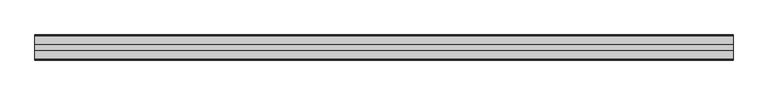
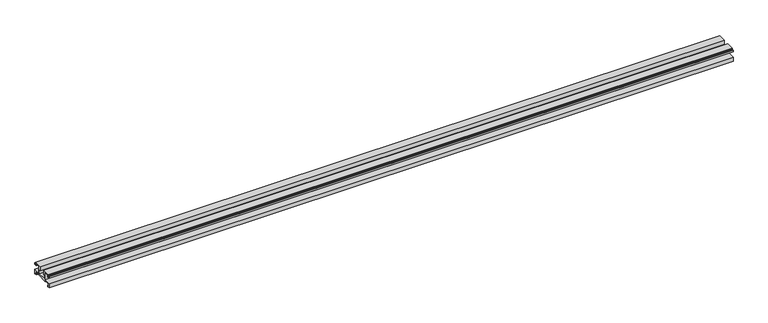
"""IFC4 building model written with IfcOpenShell, lengths in millimetres: proxy geometry, Weiku - Montante - Acoplamento vidro : Weiku - Montante - Acoplamento vidro."""

from ifc_helpers import new_model, si_unit, frame, origin, place, context, project, spatial, polyline, outline, extrude, source, transform, mapped, element, save


def generic_models_99decb81(model_context):
    return source(origin(), model_context, "Body", "SweptSolid", [
        extrude(outline(polyline([(35.405, 5.1494), (12.495, 5.1494), (12.495, 6.8004), (2.159, 6.8004), (2.159, 2.6094), (4.0216, 2.6094), (4.0216, 0.0), (-0.0014508, 0.0), (-0.0014508, 8.79), (12.954, 8.79), (12.954, 23.3104), (4.3603, 23.3104), (4.3603, 19.204), (0.0, 19.204), (0.0, 22.8024), (0.9736, 22.8024), (0.9736, 20.3894), (3.175, 20.3894), (3.175, 23.9454), (2.3735496, 23.9454), (2.3735496, 25.3), (17.4836, 25.3), (17.4836, 16.283), (15.4516, 16.283), (15.4516, 8.8), (32.4484, 8.8), (32.4484, 16.283), (30.4164, 16.283), (30.4164, 25.3), (45.5264504, 25.3), (45.5264504, 23.9454), (44.725, 23.9454), (44.725, 20.3894), (46.9264, 20.3894), (46.9264, 22.8024), (47.9, 22.8024), (47.9, 19.204), (43.5397, 19.204), (43.5397, 23.3104), (34.946, 23.3104), (34.946, 8.79), (47.9014508, 8.79), (47.9014508, 0.0), (43.8784, 0.0), (43.8784, 2.6094), (45.741, 2.6094), (45.741, 6.8004), (35.405, 6.8004), (35.405, 5.1494)])), frame((-665.75, 0.0, 0.0), z_axis=(1.0, 0.0, 0.0), x_axis=(0.0, 1.0, 0.0)), (0.0, 0.0, 1.0), 1331.5),
    ])


if __name__ == "__main__":
    model = new_model("IFC4")
    model_context = context("Model", 3, world=origin())
    ifc_project = project(units=[si_unit("LENGTHUNIT", "METRE", prefix="MILLI")], contexts=[model_context])
    site = spatial("IfcSite", under=ifc_project)
    building = spatial("IfcBuilding", under=site)
    placement = place(None, origin())
    generic_models_shape = generic_models_99decb81(model_context)
    element("IfcBuildingElementProxy", 1, Name="Weiku - Montante - Acoplamento vidro : Weiku - Montante - Acoplamento vidro", ObjectType="Weiku - Montante - Acoplamento vidro : Weiku - Montante - Acoplamento vidro", at=placement, inside=building, context=model_context, shape_type="MappedRepresentation", body=[
        mapped(generic_models_shape, transform((0.0, 0.0, 0.0), x_axis=(1.0, 0.0, 0.0), y_axis=(0.0, 1.0, 0.0), z_axis=(0.0, 0.0, 1.0))),
    ])
    save(model, "model.ifc")
